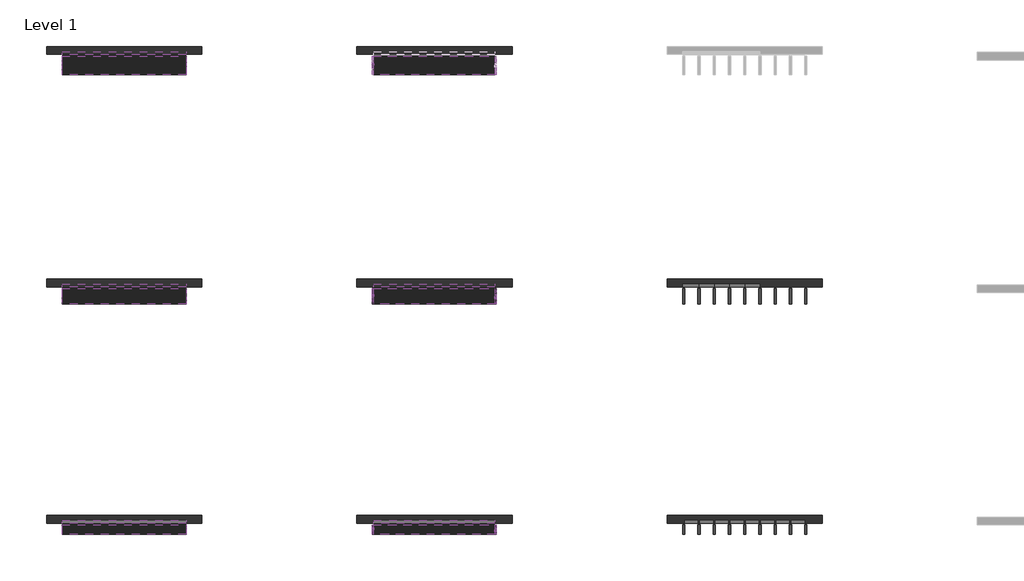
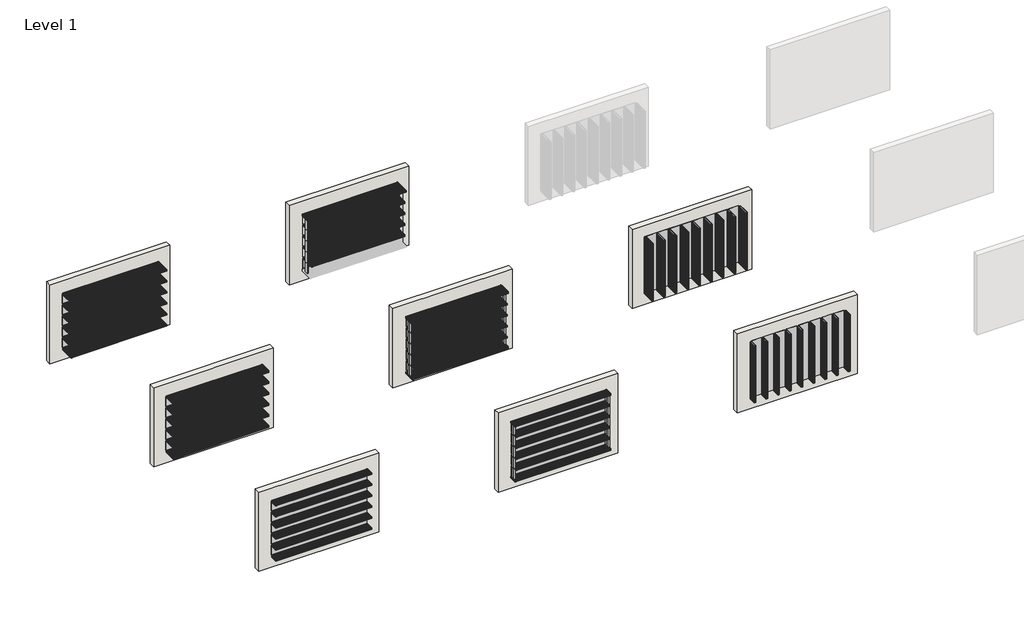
# One storey, part 1 of 2: 78 members, 42 plates, 8 walls.
"""IFC4 building model written with IfcOpenShell, lengths in millimetres."""

from ifc_helpers import new_model, si_unit, frame, origin, place, context, project, spatial, polyline, outline, extrude, transform, mapped, element, save
from components import rectangular_mullion_e7a12ab5, rectangular_mullion_9afa0fde, rectangular_mullion_1fec48aa, rectangular_mullion_8edc9b5f, rectangular_mullion_f36710fc, rectangular_mullion_82132d08, rectangular_mullion_6b931d9c, rectangular_mullion_3092dc87, rectangular_mullion_f4db7530, rectangular_mullion_54078338, rectangular_mullion_9ec098c8, rectangular_mullion_fd81fceb, rectangular_mullion_efde3910, rectangular_mullion_515cd994, rectangular_mullion_b1ff1e1a, rectangular_mullion_0f0b8b28, rectangular_mullion_9a2d486a, rectangular_mullion_e13a8b86, rectangular_mullion_43a89640, rectangular_mullion_75429e41, rectangular_mullion_1ee86cb2, rectangular_mullion_ad60da95, rectangular_mullion_b48c3bbc, rectangular_mullion_64b65505, rectangular_mullion_6cfd7e29, rectangular_mullion_b2dc265e, rectangular_mullion_c6cb1da7, rectangular_mullion_bf93cbae, empty_system_panel_empty_2b10398d, empty_system_panel_empty_9535f070, empty_system_panel_empty_1f33cd26, empty_system_panel_empty_1204e38e, empty_system_panel_empty_f2d115f6

model = new_model("IFC4")

# Units and contexts
model_context = context("Model", 3, world=origin())
ifc_project = project(units=[si_unit("LENGTHUNIT", "METRE", prefix="MILLI")], contexts=[model_context])

# Site, building, storey
site = spatial("IfcSite", under=ifc_project)
building = spatial("IfcBuilding", under=site)
storey = spatial("IfcBuildingStorey", under=building, Name="Level 1", Elevation=0.0)

# Members
placement = place(None, origin())
rectangular_mullion_shape = rectangular_mullion_e7a12ab5(model_context)
element("IfcMember", 1, ObjectType="Rectangular Mullion : DucoSun Cubic Design louvre 300", at=placement, inside=storey, context=model_context, shape_type="MappedRepresentation", body=[
    mapped(rectangular_mullion_shape, transform((-39750.3735323, 5955.0640004, 0.0), x_axis=(1.0, 0.0, 0.0), y_axis=(0.0, -1.0, 0.0), z_axis=(0.0, 0.0, -1.0))),
])
element("IfcMember", 2, ObjectType="Rectangular Mullion : DucoSun Cubic Design louvre 300", at=placement, inside=storey, context=model_context, shape_type="MappedRepresentation", body=[
    mapped(rectangular_mullion_shape, transform((-39258.8735324, 5955.0640004, 0.0), x_axis=(1.0, 0.0, 0.0), y_axis=(0.0, -1.0, 0.0), z_axis=(0.0, 0.0, -1.0))),
])
element("IfcMember", 3, ObjectType="Rectangular Mullion : DucoSun Cubic Design louvre 300", at=placement, inside=storey, context=model_context, shape_type="MappedRepresentation", body=[
    mapped(rectangular_mullion_shape, transform((-38767.3735325, 5955.0640004, 0.0), x_axis=(1.0, 0.0, 0.0), y_axis=(0.0, -1.0, 0.0), z_axis=(0.0, 0.0, -1.0))),
])
element("IfcMember", 4, ObjectType="Rectangular Mullion : DucoSun Cubic Design louvre 300", at=placement, inside=storey, context=model_context, shape_type="MappedRepresentation", body=[
    mapped(rectangular_mullion_shape, transform((-38275.8735325, 5955.0640004, 0.0), x_axis=(1.0, 0.0, 0.0), y_axis=(0.0, -1.0, 0.0), z_axis=(0.0, 0.0, -1.0))),
])
element("IfcMember", 5, ObjectType="Rectangular Mullion : DucoSun Cubic Design louvre 300", at=placement, inside=storey, context=model_context, shape_type="MappedRepresentation", body=[
    mapped(rectangular_mullion_shape, transform((-37784.3735326, 5955.0640004, 0.0), x_axis=(1.0, 0.0, 0.0), y_axis=(0.0, -1.0, 0.0), z_axis=(0.0, 0.0, -1.0))),
])
element("IfcMember", 6, ObjectType="Rectangular Mullion : DucoSun Cubic Design louvre 300", at=placement, inside=storey, context=model_context, shape_type="MappedRepresentation", body=[
    mapped(rectangular_mullion_shape, transform((-37292.8735327, 5955.0640004, 0.0), x_axis=(1.0, 0.0, 0.0), y_axis=(0.0, -1.0, 0.0), z_axis=(0.0, 0.0, -1.0))),
])
element("IfcMember", 7, ObjectType="Rectangular Mullion : DucoSun Cubic Design louvre 300", at=placement, inside=storey, context=model_context, shape_type="MappedRepresentation", body=[
    mapped(rectangular_mullion_shape, transform((-36801.3735328, 5955.0640004, 0.0), x_axis=(1.0, 0.0, 0.0), y_axis=(0.0, -1.0, 0.0), z_axis=(0.0, 0.0, -1.0))),
])
rectangular_mullion_2_shape = rectangular_mullion_9afa0fde(model_context)
element("IfcMember", 8, ObjectType="Rectangular Mullion : DucoSun Cubic Design louvre 300", at=placement, inside=storey, context=model_context, shape_type="MappedRepresentation", body=[
    mapped(rectangular_mullion_2_shape, transform((-36275.8735325, 5955.0640004, 0.0), x_axis=(1.0, 0.0, 0.0), y_axis=(0.0, -1.0, 0.0), z_axis=(0.0, 0.0, -1.0))),
])
rectangular_mullion_3_shape = rectangular_mullion_1fec48aa(model_context)
element("IfcMember", 9, ObjectType="Rectangular Mullion : DucoSun Cubic Design louvre 300", at=placement, inside=storey, context=model_context, shape_type="MappedRepresentation", body=[
    mapped(rectangular_mullion_3_shape, transform((-40275.8735325, 5955.0640004, 2500.0), x_axis=(-1.0, 0.0, 0.0), y_axis=(0.0, -1.0, 0.0), z_axis=(0.0, 0.0, 1.0))),
])
rectangular_mullion_4_shape = rectangular_mullion_8edc9b5f(model_context)
element("IfcMember", 10, ObjectType="Rectangular Mullion : DucoSun Cubic Design louvre 500", at=placement, inside=storey, context=model_context, shape_type="MappedRepresentation", body=[
    mapped(rectangular_mullion_4_shape, transform((-39750.3735323, 13580.0640004, 0.0), x_axis=(1.0, 0.0, 0.0), y_axis=(0.0, -1.0, 0.0), z_axis=(0.0, 0.0, -1.0))),
])
element("IfcMember", 11, ObjectType="Rectangular Mullion : DucoSun Cubic Design louvre 500", at=placement, inside=storey, context=model_context, shape_type="MappedRepresentation", body=[
    mapped(rectangular_mullion_4_shape, transform((-39258.8735324, 13580.0640004, 0.0), x_axis=(1.0, 0.0, 0.0), y_axis=(0.0, -1.0, 0.0), z_axis=(0.0, 0.0, -1.0))),
])
element("IfcMember", 12, ObjectType="Rectangular Mullion : DucoSun Cubic Design louvre 500", at=placement, inside=storey, context=model_context, shape_type="MappedRepresentation", body=[
    mapped(rectangular_mullion_4_shape, transform((-38767.3735325, 13580.0640004, 0.0), x_axis=(1.0, 0.0, 0.0), y_axis=(0.0, -1.0, 0.0), z_axis=(0.0, 0.0, -1.0))),
])
element("IfcMember", 13, ObjectType="Rectangular Mullion : DucoSun Cubic Design louvre 500", at=placement, inside=storey, context=model_context, shape_type="MappedRepresentation", body=[
    mapped(rectangular_mullion_4_shape, transform((-38275.8735325, 13580.0640004, 0.0), x_axis=(1.0, 0.0, 0.0), y_axis=(0.0, -1.0, 0.0), z_axis=(0.0, 0.0, -1.0))),
])
element("IfcMember", 14, ObjectType="Rectangular Mullion : DucoSun Cubic Design louvre 500", at=placement, inside=storey, context=model_context, shape_type="MappedRepresentation", body=[
    mapped(rectangular_mullion_4_shape, transform((-37784.3735326, 13580.0640004, 0.0), x_axis=(1.0, 0.0, 0.0), y_axis=(0.0, -1.0, 0.0), z_axis=(0.0, 0.0, -1.0))),
])
element("IfcMember", 15, ObjectType="Rectangular Mullion : DucoSun Cubic Design louvre 500", at=placement, inside=storey, context=model_context, shape_type="MappedRepresentation", body=[
    mapped(rectangular_mullion_4_shape, transform((-37292.8735327, 13580.0640004, 0.0), x_axis=(1.0, 0.0, 0.0), y_axis=(0.0, -1.0, 0.0), z_axis=(0.0, 0.0, -1.0))),
])
element("IfcMember", 16, ObjectType="Rectangular Mullion : DucoSun Cubic Design louvre 500", at=placement, inside=storey, context=model_context, shape_type="MappedRepresentation", body=[
    mapped(rectangular_mullion_4_shape, transform((-36801.3735328, 13580.0640004, 0.0), x_axis=(1.0, 0.0, 0.0), y_axis=(0.0, -1.0, 0.0), z_axis=(0.0, 0.0, -1.0))),
])
rectangular_mullion_5_shape = rectangular_mullion_f36710fc(model_context)
element("IfcMember", 17, ObjectType="Rectangular Mullion : DucoSun Cubic Design louvre 500", at=placement, inside=storey, context=model_context, shape_type="MappedRepresentation", body=[
    mapped(rectangular_mullion_5_shape, transform((-36275.8735325, 13580.0640004, 0.0), x_axis=(1.0, 0.0, 0.0), y_axis=(0.0, -1.0, 0.0), z_axis=(0.0, 0.0, -1.0))),
])
rectangular_mullion_6_shape = rectangular_mullion_82132d08(model_context)
element("IfcMember", 18, ObjectType="Rectangular Mullion : DucoSun Cubic Design louvre 500", at=placement, inside=storey, context=model_context, shape_type="MappedRepresentation", body=[
    mapped(rectangular_mullion_6_shape, transform((-40275.8735325, 13580.0640004, 2500.0), x_axis=(-1.0, 0.0, 0.0), y_axis=(0.0, -1.0, 0.0), z_axis=(0.0, 0.0, 1.0))),
])
rectangular_mullion_7_shape = rectangular_mullion_6b931d9c(model_context)
element("IfcMember", 19, ObjectType="Rectangular Mullion : DucoSun Cubic Design louvre 300", at=placement, inside=storey, context=model_context, shape_type="MappedRepresentation", body=[
    mapped(rectangular_mullion_7_shape, transform((-60275.8735325, 5955.0640004, 2500.0), x_axis=(0.0, 0.0, 1.0), y_axis=(0.0, 1.0, 0.0), z_axis=(-1.0, 0.0, 0.0))),
])
rectangular_mullion_8_shape = rectangular_mullion_3092dc87(model_context)
element("IfcMember", 20, ObjectType="Rectangular Mullion : DucoSun Cubic Design louvre 300", at=placement, inside=storey, context=model_context, shape_type="MappedRepresentation", body=[
    mapped(rectangular_mullion_8_shape, transform((-56275.8735325, 5955.0640004, 0.0), x_axis=(0.0, 0.0, -1.0), y_axis=(0.0, 1.0, 0.0), z_axis=(1.0, 0.0, 0.0))),
])
rectangular_mullion_9_shape = rectangular_mullion_f4db7530(model_context)
element("IfcMember", 21, ObjectType="Rectangular Mullion : DucoSun Cubic Design louvre 300", at=placement, inside=storey, context=model_context, shape_type="MappedRepresentation", body=[
    mapped(rectangular_mullion_9_shape, transform((-60275.8735325, 5955.0640004, 520.4), x_axis=(0.0, 0.0, 1.0), y_axis=(0.0, 1.0, 0.0), z_axis=(-1.0, 0.0, 0.0))),
])
element("IfcMember", 22, ObjectType="Rectangular Mullion : DucoSun Cubic Design louvre 300", at=placement, inside=storey, context=model_context, shape_type="MappedRepresentation", body=[
    mapped(rectangular_mullion_9_shape, transform((-60275.8735325, 5955.0640004, 1006.8), x_axis=(0.0, 0.0, 1.0), y_axis=(0.0, 1.0, 0.0), z_axis=(-1.0, 0.0, 0.0))),
])
element("IfcMember", 23, ObjectType="Rectangular Mullion : DucoSun Cubic Design louvre 300", at=placement, inside=storey, context=model_context, shape_type="MappedRepresentation", body=[
    mapped(rectangular_mullion_9_shape, transform((-60275.8735325, 5955.0640004, 1493.2), x_axis=(0.0, 0.0, 1.0), y_axis=(0.0, 1.0, 0.0), z_axis=(-1.0, 0.0, 0.0))),
])
element("IfcMember", 24, ObjectType="Rectangular Mullion : DucoSun Cubic Design louvre 300", at=placement, inside=storey, context=model_context, shape_type="MappedRepresentation", body=[
    mapped(rectangular_mullion_9_shape, transform((-60275.8735325, 5955.0640004, 1979.6), x_axis=(0.0, 0.0, 1.0), y_axis=(0.0, 1.0, 0.0), z_axis=(-1.0, 0.0, 0.0))),
])
rectangular_mullion_10_shape = rectangular_mullion_54078338(model_context)
element("IfcMember", 25, ObjectType="Rectangular Mullion : DucoSun Cubic Design louvre 500", at=placement, inside=storey, context=model_context, shape_type="MappedRepresentation", body=[
    mapped(rectangular_mullion_10_shape, transform((-60275.8735325, 13580.0640004, 2500.0), x_axis=(0.0, 0.0, 1.0), y_axis=(0.0, 1.0, 0.0), z_axis=(-1.0, 0.0, 0.0))),
])
rectangular_mullion_11_shape = rectangular_mullion_9ec098c8(model_context)
element("IfcMember", 26, ObjectType="Rectangular Mullion : DucoSun Cubic Design louvre 500", at=placement, inside=storey, context=model_context, shape_type="MappedRepresentation", body=[
    mapped(rectangular_mullion_11_shape, transform((-56275.8735325, 13580.0640004, 0.0), x_axis=(0.0, 0.0, -1.0), y_axis=(0.0, 1.0, 0.0), z_axis=(1.0, 0.0, 0.0))),
])
rectangular_mullion_12_shape = rectangular_mullion_fd81fceb(model_context)
element("IfcMember", 27, ObjectType="Rectangular Mullion : DucoSun Cubic Design louvre 500", at=placement, inside=storey, context=model_context, shape_type="MappedRepresentation", body=[
    mapped(rectangular_mullion_12_shape, transform((-60275.8735325, 13580.0640004, 520.4), x_axis=(0.0, 0.0, 1.0), y_axis=(0.0, 1.0, 0.0), z_axis=(-1.0, 0.0, 0.0))),
])
element("IfcMember", 28, ObjectType="Rectangular Mullion : DucoSun Cubic Design louvre 500", at=placement, inside=storey, context=model_context, shape_type="MappedRepresentation", body=[
    mapped(rectangular_mullion_12_shape, transform((-60275.8735325, 13580.0640004, 1006.8), x_axis=(0.0, 0.0, 1.0), y_axis=(0.0, 1.0, 0.0), z_axis=(-1.0, 0.0, 0.0))),
])
element("IfcMember", 29, ObjectType="Rectangular Mullion : DucoSun Cubic Design louvre 500", at=placement, inside=storey, context=model_context, shape_type="MappedRepresentation", body=[
    mapped(rectangular_mullion_12_shape, transform((-60275.8735325, 13580.0640004, 1493.2), x_axis=(0.0, 0.0, 1.0), y_axis=(0.0, 1.0, 0.0), z_axis=(-1.0, 0.0, 0.0))),
])
element("IfcMember", 30, ObjectType="Rectangular Mullion : DucoSun Cubic Design louvre 500", at=placement, inside=storey, context=model_context, shape_type="MappedRepresentation", body=[
    mapped(rectangular_mullion_12_shape, transform((-60275.8735325, 13580.0640004, 1979.6), x_axis=(0.0, 0.0, 1.0), y_axis=(0.0, 1.0, 0.0), z_axis=(-1.0, 0.0, 0.0))),
])
rectangular_mullion_13_shape = rectangular_mullion_efde3910(model_context)
element("IfcMember", 31, ObjectType="Rectangular Mullion : DucoSun Cubic Design louvre 600", at=placement, inside=storey, context=model_context, shape_type="MappedRepresentation", body=[
    mapped(rectangular_mullion_13_shape, transform((-60275.8735325, 21080.0640004, 2500.0), x_axis=(0.0, 0.0, 1.0), y_axis=(0.0, 1.0, 0.0), z_axis=(-1.0, 0.0, 0.0))),
])
rectangular_mullion_14_shape = rectangular_mullion_515cd994(model_context)
element("IfcMember", 32, ObjectType="Rectangular Mullion : DucoSun Cubic Design louvre 600", at=placement, inside=storey, context=model_context, shape_type="MappedRepresentation", body=[
    mapped(rectangular_mullion_14_shape, transform((-56275.8735325, 21080.0640004, 0.0), x_axis=(0.0, 0.0, -1.0), y_axis=(0.0, 1.0, 0.0), z_axis=(1.0, 0.0, 0.0))),
])
rectangular_mullion_15_shape = rectangular_mullion_b1ff1e1a(model_context)
element("IfcMember", 33, ObjectType="Rectangular Mullion : DucoSun Cubic Design louvre 600", at=placement, inside=storey, context=model_context, shape_type="MappedRepresentation", body=[
    mapped(rectangular_mullion_15_shape, transform((-60275.8735325, 21080.0640004, 520.4), x_axis=(0.0, 0.0, 1.0), y_axis=(0.0, 1.0, 0.0), z_axis=(-1.0, 0.0, 0.0))),
])
element("IfcMember", 34, ObjectType="Rectangular Mullion : DucoSun Cubic Design louvre 600", at=placement, inside=storey, context=model_context, shape_type="MappedRepresentation", body=[
    mapped(rectangular_mullion_15_shape, transform((-60275.8735325, 21080.0640004, 1006.8), x_axis=(0.0, 0.0, 1.0), y_axis=(0.0, 1.0, 0.0), z_axis=(-1.0, 0.0, 0.0))),
])
element("IfcMember", 35, ObjectType="Rectangular Mullion : DucoSun Cubic Design louvre 600", at=placement, inside=storey, context=model_context, shape_type="MappedRepresentation", body=[
    mapped(rectangular_mullion_15_shape, transform((-60275.8735325, 21080.0640004, 1493.2), x_axis=(0.0, 0.0, 1.0), y_axis=(0.0, 1.0, 0.0), z_axis=(-1.0, 0.0, 0.0))),
])
element("IfcMember", 36, ObjectType="Rectangular Mullion : DucoSun Cubic Design louvre 600", at=placement, inside=storey, context=model_context, shape_type="MappedRepresentation", body=[
    mapped(rectangular_mullion_15_shape, transform((-60275.8735325, 21080.0640004, 1979.6), x_axis=(0.0, 0.0, 1.0), y_axis=(0.0, 1.0, 0.0), z_axis=(-1.0, 0.0, 0.0))),
])
element("IfcMember", 37, ObjectType="Rectangular Mullion : DucoSun Cubic Design louvre 300", at=placement, inside=storey, context=model_context, shape_type="MappedRepresentation", body=[
    mapped(rectangular_mullion_7_shape, transform((-50275.8735325, 5955.0640004, 2500.0), x_axis=(0.0, 0.0, 1.0), y_axis=(0.0, 1.0, 0.0), z_axis=(-1.0, 0.0, 0.0))),
])
element("IfcMember", 38, ObjectType="Rectangular Mullion : DucoSun Cubic Design louvre 300", at=placement, inside=storey, context=model_context, shape_type="MappedRepresentation", body=[
    mapped(rectangular_mullion_8_shape, transform((-46275.8735325, 5955.0640004, 0.0), x_axis=(0.0, 0.0, -1.0), y_axis=(0.0, 1.0, 0.0), z_axis=(1.0, 0.0, 0.0))),
])
rectangular_mullion_16_shape = rectangular_mullion_0f0b8b28(model_context)
element("IfcMember", 39, ObjectType="Rectangular Mullion : DucoSun Cubic Design louvre 300", at=placement, inside=storey, context=model_context, shape_type="MappedRepresentation", body=[
    mapped(rectangular_mullion_16_shape, transform((-50225.8735325, 5955.0640004, 520.4), x_axis=(0.0, 0.0, 1.0), y_axis=(0.0, 1.0, 0.0), z_axis=(-1.0, 0.0, 0.0))),
])
element("IfcMember", 40, ObjectType="Rectangular Mullion : DucoSun Cubic Design louvre 300", at=placement, inside=storey, context=model_context, shape_type="MappedRepresentation", body=[
    mapped(rectangular_mullion_16_shape, transform((-50225.8735325, 5955.0640004, 1006.8), x_axis=(0.0, 0.0, 1.0), y_axis=(0.0, 1.0, 0.0), z_axis=(-1.0, 0.0, 0.0))),
])
element("IfcMember", 41, ObjectType="Rectangular Mullion : DucoSun Cubic Design louvre 300", at=placement, inside=storey, context=model_context, shape_type="MappedRepresentation", body=[
    mapped(rectangular_mullion_16_shape, transform((-50225.8735325, 5955.0640004, 1493.2), x_axis=(0.0, 0.0, 1.0), y_axis=(0.0, 1.0, 0.0), z_axis=(-1.0, 0.0, 0.0))),
])
element("IfcMember", 42, ObjectType="Rectangular Mullion : DucoSun Cubic Design louvre 300", at=placement, inside=storey, context=model_context, shape_type="MappedRepresentation", body=[
    mapped(rectangular_mullion_16_shape, transform((-50225.8735325, 5955.0640004, 1979.6), x_axis=(0.0, 0.0, 1.0), y_axis=(0.0, 1.0, 0.0), z_axis=(-1.0, 0.0, 0.0))),
])
rectangular_mullion_17_shape = rectangular_mullion_9a2d486a(model_context)
element("IfcMember", 43, ObjectType="Rectangular Mullion : DucoSun Cubic Design profile 50x125 for louvre 300", at=placement, inside=storey, context=model_context, shape_type="MappedRepresentation", body=[
    mapped(rectangular_mullion_17_shape, transform((-50275.8735325, 5955.0640004, 68.0), x_axis=(-1.0, 0.0, 0.0), y_axis=(0.0, 1.0, 0.0), z_axis=(0.0, 0.0, -1.0))),
])
rectangular_mullion_18_shape = rectangular_mullion_e13a8b86(model_context)
element("IfcMember", 44, ObjectType="Rectangular Mullion : DucoSun Cubic Design profile 50x125 for louvre 300", at=placement, inside=storey, context=model_context, shape_type="MappedRepresentation", body=[
    mapped(rectangular_mullion_18_shape, transform((-50275.8735325, 5955.0640004, 520.4), x_axis=(-1.0, 0.0, 0.0), y_axis=(0.0, 1.0, 0.0), z_axis=(0.0, 0.0, -1.0))),
])
element("IfcMember", 45, ObjectType="Rectangular Mullion : DucoSun Cubic Design profile 50x125 for louvre 300", at=placement, inside=storey, context=model_context, shape_type="MappedRepresentation", body=[
    mapped(rectangular_mullion_18_shape, transform((-50275.8735325, 5955.0640004, 1006.8), x_axis=(-1.0, 0.0, 0.0), y_axis=(0.0, 1.0, 0.0), z_axis=(0.0, 0.0, -1.0))),
])
element("IfcMember", 46, ObjectType="Rectangular Mullion : DucoSun Cubic Design profile 50x125 for louvre 300", at=placement, inside=storey, context=model_context, shape_type="MappedRepresentation", body=[
    mapped(rectangular_mullion_18_shape, transform((-50275.8735325, 5955.0640004, 1493.2), x_axis=(-1.0, 0.0, 0.0), y_axis=(0.0, 1.0, 0.0), z_axis=(0.0, 0.0, -1.0))),
])
element("IfcMember", 47, ObjectType="Rectangular Mullion : DucoSun Cubic Design profile 50x125 for louvre 300", at=placement, inside=storey, context=model_context, shape_type="MappedRepresentation", body=[
    mapped(rectangular_mullion_17_shape, transform((-50275.8735325, 5955.0640004, 1979.6), x_axis=(-1.0, 0.0, 0.0), y_axis=(0.0, 1.0, 0.0), z_axis=(0.0, 0.0, -1.0))),
])
rectangular_mullion_19_shape = rectangular_mullion_43a89640(model_context)
element("IfcMember", 48, ObjectType="Rectangular Mullion : DucoSun Cubic Design profile 50x125 for louvre 300", at=placement, inside=storey, context=model_context, shape_type="MappedRepresentation", body=[
    mapped(rectangular_mullion_19_shape, transform((-46275.8735325, 5955.0640004, 2432.0), x_axis=(1.0, 0.0, 0.0), y_axis=(0.0, 1.0, 0.0), z_axis=(0.0, 0.0, 1.0))),
])
element("IfcMember", 49, ObjectType="Rectangular Mullion : DucoSun Cubic Design profile 50x125 for louvre 300", at=placement, inside=storey, context=model_context, shape_type="MappedRepresentation", body=[
    mapped(rectangular_mullion_19_shape, transform((-46275.8735325, 5955.0640004, 520.4), x_axis=(1.0, 0.0, 0.0), y_axis=(0.0, 1.0, 0.0), z_axis=(0.0, 0.0, 1.0))),
])
rectangular_mullion_20_shape = rectangular_mullion_75429e41(model_context)
element("IfcMember", 50, ObjectType="Rectangular Mullion : DucoSun Cubic Design profile 50x125 for louvre 300", at=placement, inside=storey, context=model_context, shape_type="MappedRepresentation", body=[
    mapped(rectangular_mullion_20_shape, transform((-46275.8735325, 5955.0640004, 1006.8), x_axis=(1.0, 0.0, 0.0), y_axis=(0.0, 1.0, 0.0), z_axis=(0.0, 0.0, 1.0))),
])
element("IfcMember", 51, ObjectType="Rectangular Mullion : DucoSun Cubic Design profile 50x125 for louvre 300", at=placement, inside=storey, context=model_context, shape_type="MappedRepresentation", body=[
    mapped(rectangular_mullion_20_shape, transform((-46275.8735325, 5955.0640004, 1493.2), x_axis=(1.0, 0.0, 0.0), y_axis=(0.0, 1.0, 0.0), z_axis=(0.0, 0.0, 1.0))),
])
element("IfcMember", 52, ObjectType="Rectangular Mullion : DucoSun Cubic Design profile 50x125 for louvre 300", at=placement, inside=storey, context=model_context, shape_type="MappedRepresentation", body=[
    mapped(rectangular_mullion_20_shape, transform((-46275.8735325, 5955.0640004, 1979.6), x_axis=(1.0, 0.0, 0.0), y_axis=(0.0, 1.0, 0.0), z_axis=(0.0, 0.0, 1.0))),
])
element("IfcMember", 53, ObjectType="Rectangular Mullion : DucoSun Cubic Design louvre 500", at=placement, inside=storey, context=model_context, shape_type="MappedRepresentation", body=[
    mapped(rectangular_mullion_10_shape, transform((-50275.8735325, 13580.0640004, 2500.0), x_axis=(0.0, 0.0, 1.0), y_axis=(0.0, 1.0, 0.0), z_axis=(-1.0, 0.0, 0.0))),
])
element("IfcMember", 54, ObjectType="Rectangular Mullion : DucoSun Cubic Design louvre 500", at=placement, inside=storey, context=model_context, shape_type="MappedRepresentation", body=[
    mapped(rectangular_mullion_11_shape, transform((-46275.8735325, 13580.0640004, 0.0), x_axis=(0.0, 0.0, -1.0), y_axis=(0.0, 1.0, 0.0), z_axis=(1.0, 0.0, 0.0))),
])
rectangular_mullion_21_shape = rectangular_mullion_1ee86cb2(model_context)
element("IfcMember", 55, ObjectType="Rectangular Mullion : DucoSun Cubic Design louvre 500", at=placement, inside=storey, context=model_context, shape_type="MappedRepresentation", body=[
    mapped(rectangular_mullion_21_shape, transform((-50225.8735325, 13580.0640004, 520.4), x_axis=(0.0, 0.0, 1.0), y_axis=(0.0, 1.0, 0.0), z_axis=(-1.0, 0.0, 0.0))),
])
element("IfcMember", 56, ObjectType="Rectangular Mullion : DucoSun Cubic Design louvre 500", at=placement, inside=storey, context=model_context, shape_type="MappedRepresentation", body=[
    mapped(rectangular_mullion_21_shape, transform((-50225.8735325, 13580.0640004, 1006.8), x_axis=(0.0, 0.0, 1.0), y_axis=(0.0, 1.0, 0.0), z_axis=(-1.0, 0.0, 0.0))),
])
element("IfcMember", 57, ObjectType="Rectangular Mullion : DucoSun Cubic Design louvre 500", at=placement, inside=storey, context=model_context, shape_type="MappedRepresentation", body=[
    mapped(rectangular_mullion_21_shape, transform((-50225.8735325, 13580.0640004, 1493.2), x_axis=(0.0, 0.0, 1.0), y_axis=(0.0, 1.0, 0.0), z_axis=(-1.0, 0.0, 0.0))),
])
element("IfcMember", 58, ObjectType="Rectangular Mullion : DucoSun Cubic Design louvre 500", at=placement, inside=storey, context=model_context, shape_type="MappedRepresentation", body=[
    mapped(rectangular_mullion_21_shape, transform((-50225.8735325, 13580.0640004, 1979.6), x_axis=(0.0, 0.0, 1.0), y_axis=(0.0, 1.0, 0.0), z_axis=(-1.0, 0.0, 0.0))),
])
rectangular_mullion_22_shape = rectangular_mullion_ad60da95(model_context)
element("IfcMember", 59, ObjectType="Rectangular Mullion : DucoSun Cubic Design profile 50x125 for louvre 500", at=placement, inside=storey, context=model_context, shape_type="MappedRepresentation", body=[
    mapped(rectangular_mullion_22_shape, transform((-50275.8735325, 13580.0640004, 68.0), x_axis=(-1.0, 0.0, 0.0), y_axis=(0.0, 1.0, 0.0), z_axis=(0.0, 0.0, -1.0))),
])
rectangular_mullion_23_shape = rectangular_mullion_b48c3bbc(model_context)
element("IfcMember", 60, ObjectType="Rectangular Mullion : DucoSun Cubic Design profile 50x125 for louvre 500", at=placement, inside=storey, context=model_context, shape_type="MappedRepresentation", body=[
    mapped(rectangular_mullion_23_shape, transform((-50275.8735325, 13580.0640004, 520.4), x_axis=(-1.0, 0.0, 0.0), y_axis=(0.0, 1.0, 0.0), z_axis=(0.0, 0.0, -1.0))),
])
element("IfcMember", 61, ObjectType="Rectangular Mullion : DucoSun Cubic Design profile 50x125 for louvre 500", at=placement, inside=storey, context=model_context, shape_type="MappedRepresentation", body=[
    mapped(rectangular_mullion_23_shape, transform((-50275.8735325, 13580.0640004, 1006.8), x_axis=(-1.0, 0.0, 0.0), y_axis=(0.0, 1.0, 0.0), z_axis=(0.0, 0.0, -1.0))),
])
element("IfcMember", 62, ObjectType="Rectangular Mullion : DucoSun Cubic Design profile 50x125 for louvre 500", at=placement, inside=storey, context=model_context, shape_type="MappedRepresentation", body=[
    mapped(rectangular_mullion_23_shape, transform((-50275.8735325, 13580.0640004, 1493.2), x_axis=(-1.0, 0.0, 0.0), y_axis=(0.0, 1.0, 0.0), z_axis=(0.0, 0.0, -1.0))),
])
element("IfcMember", 63, ObjectType="Rectangular Mullion : DucoSun Cubic Design profile 50x125 for louvre 500", at=placement, inside=storey, context=model_context, shape_type="MappedRepresentation", body=[
    mapped(rectangular_mullion_22_shape, transform((-50275.8735325, 13580.0640004, 1979.6), x_axis=(-1.0, 0.0, 0.0), y_axis=(0.0, 1.0, 0.0), z_axis=(0.0, 0.0, -1.0))),
])
rectangular_mullion_24_shape = rectangular_mullion_64b65505(model_context)
element("IfcMember", 64, ObjectType="Rectangular Mullion : DucoSun Cubic Design profile 50x125 for louvre 500", at=placement, inside=storey, context=model_context, shape_type="MappedRepresentation", body=[
    mapped(rectangular_mullion_24_shape, transform((-46275.8735325, 13580.0640004, 2432.0), x_axis=(1.0, 0.0, 0.0), y_axis=(0.0, 1.0, 0.0), z_axis=(0.0, 0.0, 1.0))),
])
element("IfcMember", 65, ObjectType="Rectangular Mullion : DucoSun Cubic Design profile 50x125 for louvre 500", at=placement, inside=storey, context=model_context, shape_type="MappedRepresentation", body=[
    mapped(rectangular_mullion_24_shape, transform((-46275.8735325, 13580.0640004, 520.4), x_axis=(1.0, 0.0, 0.0), y_axis=(0.0, 1.0, 0.0), z_axis=(0.0, 0.0, 1.0))),
])
rectangular_mullion_25_shape = rectangular_mullion_6cfd7e29(model_context)
element("IfcMember", 66, ObjectType="Rectangular Mullion : DucoSun Cubic Design profile 50x125 for louvre 500", at=placement, inside=storey, context=model_context, shape_type="MappedRepresentation", body=[
    mapped(rectangular_mullion_25_shape, transform((-46275.8735325, 13580.0640004, 1006.8), x_axis=(1.0, 0.0, 0.0), y_axis=(0.0, 1.0, 0.0), z_axis=(0.0, 0.0, 1.0))),
])
element("IfcMember", 67, ObjectType="Rectangular Mullion : DucoSun Cubic Design profile 50x125 for louvre 500", at=placement, inside=storey, context=model_context, shape_type="MappedRepresentation", body=[
    mapped(rectangular_mullion_25_shape, transform((-46275.8735325, 13580.0640004, 1493.2), x_axis=(1.0, 0.0, 0.0), y_axis=(0.0, 1.0, 0.0), z_axis=(0.0, 0.0, 1.0))),
])
element("IfcMember", 68, ObjectType="Rectangular Mullion : DucoSun Cubic Design profile 50x125 for louvre 500", at=placement, inside=storey, context=model_context, shape_type="MappedRepresentation", body=[
    mapped(rectangular_mullion_25_shape, transform((-46275.8735325, 13580.0640004, 1979.6), x_axis=(1.0, 0.0, 0.0), y_axis=(0.0, 1.0, 0.0), z_axis=(0.0, 0.0, 1.0))),
])
element("IfcMember", 69, ObjectType="Rectangular Mullion : DucoSun Cubic Design louvre 600", at=placement, inside=storey, context=model_context, shape_type="MappedRepresentation", body=[
    mapped(rectangular_mullion_13_shape, transform((-50275.8735325, 21080.0640004, 2500.0), x_axis=(0.0, 0.0, 1.0), y_axis=(0.0, 1.0, 0.0), z_axis=(-1.0, 0.0, 0.0))),
])
rectangular_mullion_26_shape = rectangular_mullion_b2dc265e(model_context)
element("IfcMember", 70, ObjectType="Rectangular Mullion : DucoSun Cubic Design louvre 600", at=placement, inside=storey, context=model_context, shape_type="MappedRepresentation", body=[
    mapped(rectangular_mullion_26_shape, transform((-50225.8735325, 21080.0640004, 520.4), x_axis=(0.0, 0.0, 1.0), y_axis=(0.0, 1.0, 0.0), z_axis=(-1.0, 0.0, 0.0))),
])
element("IfcMember", 71, ObjectType="Rectangular Mullion : DucoSun Cubic Design louvre 600", at=placement, inside=storey, context=model_context, shape_type="MappedRepresentation", body=[
    mapped(rectangular_mullion_26_shape, transform((-50225.8735325, 21080.0640004, 1006.8), x_axis=(0.0, 0.0, 1.0), y_axis=(0.0, 1.0, 0.0), z_axis=(-1.0, 0.0, 0.0))),
])
element("IfcMember", 72, ObjectType="Rectangular Mullion : DucoSun Cubic Design louvre 600", at=placement, inside=storey, context=model_context, shape_type="MappedRepresentation", body=[
    mapped(rectangular_mullion_26_shape, transform((-50225.8735325, 21080.0640004, 1493.2), x_axis=(0.0, 0.0, 1.0), y_axis=(0.0, 1.0, 0.0), z_axis=(-1.0, 0.0, 0.0))),
])
element("IfcMember", 73, ObjectType="Rectangular Mullion : DucoSun Cubic Design louvre 600", at=placement, inside=storey, context=model_context, shape_type="MappedRepresentation", body=[
    mapped(rectangular_mullion_26_shape, transform((-50225.8735325, 21080.0640004, 1979.6), x_axis=(0.0, 0.0, 1.0), y_axis=(0.0, 1.0, 0.0), z_axis=(-1.0, 0.0, 0.0))),
])
rectangular_mullion_27_shape = rectangular_mullion_c6cb1da7(model_context)
element("IfcMember", 74, ObjectType="Rectangular Mullion : DucoSun Cubic Design profile 50x125 for louvre 600", at=placement, inside=storey, context=model_context, shape_type="MappedRepresentation", body=[
    mapped(rectangular_mullion_27_shape, transform((-50275.8735325, 21080.0640004, 68.0), x_axis=(-1.0, 0.0, 0.0), y_axis=(0.0, 1.0, 0.0), z_axis=(0.0, 0.0, -1.0))),
])
rectangular_mullion_28_shape = rectangular_mullion_bf93cbae(model_context)
element("IfcMember", 75, ObjectType="Rectangular Mullion : DucoSun Cubic Design profile 50x125 for louvre 600", at=placement, inside=storey, context=model_context, shape_type="MappedRepresentation", body=[
    mapped(rectangular_mullion_28_shape, transform((-50275.8735325, 21080.0640004, 520.4), x_axis=(-1.0, 0.0, 0.0), y_axis=(0.0, 1.0, 0.0), z_axis=(0.0, 0.0, -1.0))),
])
element("IfcMember", 76, ObjectType="Rectangular Mullion : DucoSun Cubic Design profile 50x125 for louvre 600", at=placement, inside=storey, context=model_context, shape_type="MappedRepresentation", body=[
    mapped(rectangular_mullion_28_shape, transform((-50275.8735325, 21080.0640004, 1006.8), x_axis=(-1.0, 0.0, 0.0), y_axis=(0.0, 1.0, 0.0), z_axis=(0.0, 0.0, -1.0))),
])
element("IfcMember", 77, ObjectType="Rectangular Mullion : DucoSun Cubic Design profile 50x125 for louvre 600", at=placement, inside=storey, context=model_context, shape_type="MappedRepresentation", body=[
    mapped(rectangular_mullion_28_shape, transform((-50275.8735325, 21080.0640004, 1493.2), x_axis=(-1.0, 0.0, 0.0), y_axis=(0.0, 1.0, 0.0), z_axis=(0.0, 0.0, -1.0))),
])
element("IfcMember", 78, ObjectType="Rectangular Mullion : DucoSun Cubic Design profile 50x125 for louvre 600", at=placement, inside=storey, context=model_context, shape_type="MappedRepresentation", body=[
    mapped(rectangular_mullion_27_shape, transform((-50275.8735325, 21080.0640004, 1979.6), x_axis=(-1.0, 0.0, 0.0), y_axis=(0.0, 1.0, 0.0), z_axis=(0.0, 0.0, -1.0))),
])

# Plates
empty_system_panel_empty_shape = empty_system_panel_empty_2b10398d(model_context)
element("IfcPlate", 79, ObjectType="Empty System Panel : Empty", at=placement, inside=storey, context=model_context, shape_type="MappedRepresentation", body=[
    mapped(empty_system_panel_empty_shape, transform((-40013.1235324, 13580.0640004, 0.0), x_axis=(1.0, 0.0, 0.0), y_axis=(0.0, 1.0, 0.0), z_axis=(0.0, 0.0, 1.0))),
])
empty_system_panel_empty_2_shape = empty_system_panel_empty_9535f070(model_context)
element("IfcPlate", 80, ObjectType="Empty System Panel : Empty", at=placement, inside=storey, context=model_context, shape_type="MappedRepresentation", body=[
    mapped(empty_system_panel_empty_2_shape, transform((-39504.6235323, 13580.0640004, 0.0), x_axis=(1.0, 0.0, 0.0), y_axis=(0.0, 1.0, 0.0), z_axis=(0.0, 0.0, 1.0))),
])
element("IfcPlate", 81, ObjectType="Empty System Panel : Empty", at=placement, inside=storey, context=model_context, shape_type="MappedRepresentation", body=[
    mapped(empty_system_panel_empty_2_shape, transform((-39013.1235324, 13580.0640004, 0.0), x_axis=(1.0, 0.0, 0.0), y_axis=(0.0, 1.0, 0.0), z_axis=(0.0, 0.0, 1.0))),
])
element("IfcPlate", 82, ObjectType="Empty System Panel : Empty", at=placement, inside=storey, context=model_context, shape_type="MappedRepresentation", body=[
    mapped(empty_system_panel_empty_2_shape, transform((-38521.6235325, 13580.0640004, 0.0), x_axis=(1.0, 0.0, 0.0), y_axis=(0.0, 1.0, 0.0), z_axis=(0.0, 0.0, 1.0))),
])
element("IfcPlate", 83, ObjectType="Empty System Panel : Empty", at=placement, inside=storey, context=model_context, shape_type="MappedRepresentation", body=[
    mapped(empty_system_panel_empty_2_shape, transform((-38030.1235326, 13580.0640004, 0.0), x_axis=(1.0, 0.0, 0.0), y_axis=(0.0, 1.0, 0.0), z_axis=(0.0, 0.0, 1.0))),
])
element("IfcPlate", 84, ObjectType="Empty System Panel : Empty", at=placement, inside=storey, context=model_context, shape_type="MappedRepresentation", body=[
    mapped(empty_system_panel_empty_2_shape, transform((-37538.6235327, 13580.0640004, 0.0), x_axis=(1.0, 0.0, 0.0), y_axis=(0.0, 1.0, 0.0), z_axis=(0.0, 0.0, 1.0))),
])
element("IfcPlate", 85, ObjectType="Empty System Panel : Empty", at=placement, inside=storey, context=model_context, shape_type="MappedRepresentation", body=[
    mapped(empty_system_panel_empty_2_shape, transform((-37047.1235327, 13580.0640004, 0.0), x_axis=(1.0, 0.0, 0.0), y_axis=(0.0, 1.0, 0.0), z_axis=(0.0, 0.0, 1.0))),
])
empty_system_panel_empty_3_shape = empty_system_panel_empty_1f33cd26(model_context)
element("IfcPlate", 86, ObjectType="Empty System Panel : Empty", at=placement, inside=storey, context=model_context, shape_type="MappedRepresentation", body=[
    mapped(empty_system_panel_empty_3_shape, transform((-39996.1235324, 5955.0640004, 0.0), x_axis=(1.0, 0.0, 0.0), y_axis=(0.0, 1.0, 0.0), z_axis=(0.0, 0.0, 1.0))),
])
element("IfcPlate", 87, ObjectType="Empty System Panel : Empty", at=placement, inside=storey, context=model_context, shape_type="MappedRepresentation", body=[
    mapped(empty_system_panel_empty_3_shape, transform((-39504.6235323, 5955.0640004, 0.0), x_axis=(1.0, 0.0, 0.0), y_axis=(0.0, 1.0, 0.0), z_axis=(0.0, 0.0, 1.0))),
])
element("IfcPlate", 88, ObjectType="Empty System Panel : Empty", at=placement, inside=storey, context=model_context, shape_type="MappedRepresentation", body=[
    mapped(empty_system_panel_empty_3_shape, transform((-39013.1235324, 5955.0640004, 0.0), x_axis=(1.0, 0.0, 0.0), y_axis=(0.0, 1.0, 0.0), z_axis=(0.0, 0.0, 1.0))),
])
element("IfcPlate", 89, ObjectType="Empty System Panel : Empty", at=placement, inside=storey, context=model_context, shape_type="MappedRepresentation", body=[
    mapped(empty_system_panel_empty_3_shape, transform((-38521.6235325, 5955.0640004, 0.0), x_axis=(1.0, 0.0, 0.0), y_axis=(0.0, 1.0, 0.0), z_axis=(0.0, 0.0, 1.0))),
])
element("IfcPlate", 90, ObjectType="Empty System Panel : Empty", at=placement, inside=storey, context=model_context, shape_type="MappedRepresentation", body=[
    mapped(empty_system_panel_empty_3_shape, transform((-38030.1235326, 5955.0640004, 0.0), x_axis=(1.0, 0.0, 0.0), y_axis=(0.0, 1.0, 0.0), z_axis=(0.0, 0.0, 1.0))),
])
element("IfcPlate", 91, ObjectType="Empty System Panel : Empty", at=placement, inside=storey, context=model_context, shape_type="MappedRepresentation", body=[
    mapped(empty_system_panel_empty_3_shape, transform((-37538.6235327, 5955.0640004, 0.0), x_axis=(1.0, 0.0, 0.0), y_axis=(0.0, 1.0, 0.0), z_axis=(0.0, 0.0, 1.0))),
])
element("IfcPlate", 92, ObjectType="Empty System Panel : Empty", at=placement, inside=storey, context=model_context, shape_type="MappedRepresentation", body=[
    mapped(empty_system_panel_empty_3_shape, transform((-37047.1235327, 5955.0640004, 0.0), x_axis=(1.0, 0.0, 0.0), y_axis=(0.0, 1.0, 0.0), z_axis=(0.0, 0.0, 1.0))),
])
element("IfcPlate", 93, ObjectType="Empty System Panel : Empty", at=placement, inside=storey, context=model_context, shape_type="MappedRepresentation", body=[
    mapped(empty_system_panel_empty_3_shape, transform((-36555.6235327, 5955.0640004, 0.0), x_axis=(1.0, 0.0, 0.0), y_axis=(0.0, 1.0, 0.0), z_axis=(0.0, 0.0, 1.0))),
])
element("IfcPlate", 94, ObjectType="Empty System Panel : Empty", at=placement, inside=storey, context=model_context, shape_type="MappedRepresentation", body=[
    mapped(empty_system_panel_empty_3_shape, transform((-36555.6235327, 13580.0640004, 0.0), x_axis=(1.0, 0.0, 0.0), y_axis=(0.0, 1.0, 0.0), z_axis=(0.0, 0.0, 1.0))),
])
empty_system_panel_empty_4_shape = empty_system_panel_empty_1204e38e(model_context)
element("IfcPlate", 95, ObjectType="Empty System Panel : Empty", at=placement, inside=storey, context=model_context, shape_type="MappedRepresentation", body=[
    mapped(empty_system_panel_empty_4_shape, transform((-58275.8735325, 5955.0640004, 66.0), x_axis=(-1.0, 0.0, 0.0), y_axis=(0.0, -1.0, 0.0), z_axis=(0.0, 0.0, 1.0))),
])
element("IfcPlate", 96, ObjectType="Empty System Panel : Empty", at=placement, inside=storey, context=model_context, shape_type="MappedRepresentation", body=[
    mapped(empty_system_panel_empty_4_shape, transform((-58275.8735325, 5955.0640004, 552.4), x_axis=(-1.0, 0.0, 0.0), y_axis=(0.0, -1.0, 0.0), z_axis=(0.0, 0.0, 1.0))),
])
element("IfcPlate", 97, ObjectType="Empty System Panel : Empty", at=placement, inside=storey, context=model_context, shape_type="MappedRepresentation", body=[
    mapped(empty_system_panel_empty_4_shape, transform((-58275.8735325, 5955.0640004, 1038.8), x_axis=(-1.0, 0.0, 0.0), y_axis=(0.0, -1.0, 0.0), z_axis=(0.0, 0.0, 1.0))),
])
element("IfcPlate", 98, ObjectType="Empty System Panel : Empty", at=placement, inside=storey, context=model_context, shape_type="MappedRepresentation", body=[
    mapped(empty_system_panel_empty_4_shape, transform((-58275.8735325, 5955.0640004, 1525.2), x_axis=(-1.0, 0.0, 0.0), y_axis=(0.0, -1.0, 0.0), z_axis=(0.0, 0.0, 1.0))),
])
element("IfcPlate", 99, ObjectType="Empty System Panel : Empty", at=placement, inside=storey, context=model_context, shape_type="MappedRepresentation", body=[
    mapped(empty_system_panel_empty_4_shape, transform((-58275.8735325, 5955.0640004, 2011.6), x_axis=(-1.0, 0.0, 0.0), y_axis=(0.0, -1.0, 0.0), z_axis=(0.0, 0.0, 1.0))),
])
element("IfcPlate", 100, ObjectType="Empty System Panel : Empty", at=placement, inside=storey, context=model_context, shape_type="MappedRepresentation", body=[
    mapped(empty_system_panel_empty_4_shape, transform((-58275.8735325, 13580.0640004, 66.0), x_axis=(-1.0, 0.0, 0.0), y_axis=(0.0, -1.0, 0.0), z_axis=(0.0, 0.0, 1.0))),
])
element("IfcPlate", 101, ObjectType="Empty System Panel : Empty", at=placement, inside=storey, context=model_context, shape_type="MappedRepresentation", body=[
    mapped(empty_system_panel_empty_4_shape, transform((-58275.8735325, 13580.0640004, 552.4), x_axis=(-1.0, 0.0, 0.0), y_axis=(0.0, -1.0, 0.0), z_axis=(0.0, 0.0, 1.0))),
])
element("IfcPlate", 102, ObjectType="Empty System Panel : Empty", at=placement, inside=storey, context=model_context, shape_type="MappedRepresentation", body=[
    mapped(empty_system_panel_empty_4_shape, transform((-58275.8735325, 13580.0640004, 1038.8), x_axis=(-1.0, 0.0, 0.0), y_axis=(0.0, -1.0, 0.0), z_axis=(0.0, 0.0, 1.0))),
])
element("IfcPlate", 103, ObjectType="Empty System Panel : Empty", at=placement, inside=storey, context=model_context, shape_type="MappedRepresentation", body=[
    mapped(empty_system_panel_empty_4_shape, transform((-58275.8735325, 13580.0640004, 1525.2), x_axis=(-1.0, 0.0, 0.0), y_axis=(0.0, -1.0, 0.0), z_axis=(0.0, 0.0, 1.0))),
])
element("IfcPlate", 104, ObjectType="Empty System Panel : Empty", at=placement, inside=storey, context=model_context, shape_type="MappedRepresentation", body=[
    mapped(empty_system_panel_empty_4_shape, transform((-58275.8735325, 13580.0640004, 2011.6), x_axis=(-1.0, 0.0, 0.0), y_axis=(0.0, -1.0, 0.0), z_axis=(0.0, 0.0, 1.0))),
])
element("IfcPlate", 105, ObjectType="Empty System Panel : Empty", at=placement, inside=storey, context=model_context, shape_type="MappedRepresentation", body=[
    mapped(empty_system_panel_empty_4_shape, transform((-58275.8735325, 21080.0640004, 66.0), x_axis=(-1.0, 0.0, 0.0), y_axis=(0.0, -1.0, 0.0), z_axis=(0.0, 0.0, 1.0))),
])
element("IfcPlate", 106, ObjectType="Empty System Panel : Empty", at=placement, inside=storey, context=model_context, shape_type="MappedRepresentation", body=[
    mapped(empty_system_panel_empty_4_shape, transform((-58275.8735325, 21080.0640004, 552.4), x_axis=(-1.0, 0.0, 0.0), y_axis=(0.0, -1.0, 0.0), z_axis=(0.0, 0.0, 1.0))),
])
element("IfcPlate", 107, ObjectType="Empty System Panel : Empty", at=placement, inside=storey, context=model_context, shape_type="MappedRepresentation", body=[
    mapped(empty_system_panel_empty_4_shape, transform((-58275.8735325, 21080.0640004, 1038.8), x_axis=(-1.0, 0.0, 0.0), y_axis=(0.0, -1.0, 0.0), z_axis=(0.0, 0.0, 1.0))),
])
element("IfcPlate", 108, ObjectType="Empty System Panel : Empty", at=placement, inside=storey, context=model_context, shape_type="MappedRepresentation", body=[
    mapped(empty_system_panel_empty_4_shape, transform((-58275.8735325, 21080.0640004, 1525.2), x_axis=(-1.0, 0.0, 0.0), y_axis=(0.0, -1.0, 0.0), z_axis=(0.0, 0.0, 1.0))),
])
element("IfcPlate", 109, ObjectType="Empty System Panel : Empty", at=placement, inside=storey, context=model_context, shape_type="MappedRepresentation", body=[
    mapped(empty_system_panel_empty_4_shape, transform((-58275.8735325, 21080.0640004, 2011.6), x_axis=(-1.0, 0.0, 0.0), y_axis=(0.0, -1.0, 0.0), z_axis=(0.0, 0.0, 1.0))),
])
empty_system_panel_empty_5_shape = empty_system_panel_empty_f2d115f6(model_context)
element("IfcPlate", 110, ObjectType="Empty System Panel : Empty", at=placement, inside=storey, context=model_context, shape_type="MappedRepresentation", body=[
    mapped(empty_system_panel_empty_5_shape, transform((-48275.8735325, 5955.0640004, 66.0), x_axis=(-1.0, 0.0, 0.0), y_axis=(0.0, -1.0, 0.0), z_axis=(0.0, 0.0, 1.0))),
])
element("IfcPlate", 111, ObjectType="Empty System Panel : Empty", at=placement, inside=storey, context=model_context, shape_type="MappedRepresentation", body=[
    mapped(empty_system_panel_empty_5_shape, transform((-48275.8735325, 5955.0640004, 552.4), x_axis=(-1.0, 0.0, 0.0), y_axis=(0.0, -1.0, 0.0), z_axis=(0.0, 0.0, 1.0))),
])
element("IfcPlate", 112, ObjectType="Empty System Panel : Empty", at=placement, inside=storey, context=model_context, shape_type="MappedRepresentation", body=[
    mapped(empty_system_panel_empty_5_shape, transform((-48275.8735325, 5955.0640004, 1038.8), x_axis=(-1.0, 0.0, 0.0), y_axis=(0.0, -1.0, 0.0), z_axis=(0.0, 0.0, 1.0))),
])
element("IfcPlate", 113, ObjectType="Empty System Panel : Empty", at=placement, inside=storey, context=model_context, shape_type="MappedRepresentation", body=[
    mapped(empty_system_panel_empty_5_shape, transform((-48275.8735325, 5955.0640004, 1525.2), x_axis=(-1.0, 0.0, 0.0), y_axis=(0.0, -1.0, 0.0), z_axis=(0.0, 0.0, 1.0))),
])
element("IfcPlate", 114, ObjectType="Empty System Panel : Empty", at=placement, inside=storey, context=model_context, shape_type="MappedRepresentation", body=[
    mapped(empty_system_panel_empty_5_shape, transform((-48275.8735325, 5955.0640004, 2011.6), x_axis=(-1.0, 0.0, 0.0), y_axis=(0.0, -1.0, 0.0), z_axis=(0.0, 0.0, 1.0))),
])
element("IfcPlate", 115, ObjectType="Empty System Panel : Empty", at=placement, inside=storey, context=model_context, shape_type="MappedRepresentation", body=[
    mapped(empty_system_panel_empty_5_shape, transform((-48275.8735325, 13580.0640004, 66.0), x_axis=(-1.0, 0.0, 0.0), y_axis=(0.0, -1.0, 0.0), z_axis=(0.0, 0.0, 1.0))),
])
element("IfcPlate", 116, ObjectType="Empty System Panel : Empty", at=placement, inside=storey, context=model_context, shape_type="MappedRepresentation", body=[
    mapped(empty_system_panel_empty_5_shape, transform((-48275.8735325, 13580.0640004, 552.4), x_axis=(-1.0, 0.0, 0.0), y_axis=(0.0, -1.0, 0.0), z_axis=(0.0, 0.0, 1.0))),
])
element("IfcPlate", 117, ObjectType="Empty System Panel : Empty", at=placement, inside=storey, context=model_context, shape_type="MappedRepresentation", body=[
    mapped(empty_system_panel_empty_5_shape, transform((-48275.8735325, 13580.0640004, 1038.8), x_axis=(-1.0, 0.0, 0.0), y_axis=(0.0, -1.0, 0.0), z_axis=(0.0, 0.0, 1.0))),
])
element("IfcPlate", 118, ObjectType="Empty System Panel : Empty", at=placement, inside=storey, context=model_context, shape_type="MappedRepresentation", body=[
    mapped(empty_system_panel_empty_5_shape, transform((-48275.8735325, 13580.0640004, 1525.2), x_axis=(-1.0, 0.0, 0.0), y_axis=(0.0, -1.0, 0.0), z_axis=(0.0, 0.0, 1.0))),
])
element("IfcPlate", 119, ObjectType="Empty System Panel : Empty", at=placement, inside=storey, context=model_context, shape_type="MappedRepresentation", body=[
    mapped(empty_system_panel_empty_5_shape, transform((-48275.8735325, 13580.0640004, 2011.6), x_axis=(-1.0, 0.0, 0.0), y_axis=(0.0, -1.0, 0.0), z_axis=(0.0, 0.0, 1.0))),
])
element("IfcPlate", 120, ObjectType="Empty System Panel : Empty", at=placement, inside=storey, context=model_context, shape_type="MappedRepresentation", body=[
    mapped(empty_system_panel_empty_5_shape, transform((-48275.8735325, 21080.0640004, 66.0), x_axis=(-1.0, 0.0, 0.0), y_axis=(0.0, -1.0, 0.0), z_axis=(0.0, 0.0, 1.0))),
])

# Walls
element("IfcWall", 121, ObjectType="Baisic", at=placement, inside=storey, context=model_context, shape_type="SweptSolid", body=[
    extrude(outline(polyline([(-35775.8735325, 6015.0640004), (-40775.8735325, 6015.0640004), (-40775.8735325, 6265.0640004), (-35775.8735325, 6265.0640004), (-35775.8735325, 6015.0640004)])), frame((0.0, 0.0, -500.0), z_axis=(0.0, 0.0, 1.0), x_axis=(1.0, 0.0, 0.0)), (0.0, 0.0, 1.0), 3500.0),
])
element("IfcWall", 122, ObjectType="Baisic", at=placement, inside=storey, context=model_context, shape_type="SweptSolid", body=[
    extrude(outline(polyline([(-35775.8735325, 13640.0640004), (-40775.8735325, 13640.0640004), (-40775.8735325, 13890.0640004), (-35775.8735325, 13890.0640004), (-35775.8735325, 13640.0640004)])), frame((0.0, 0.0, -500.0), z_axis=(0.0, 0.0, 1.0), x_axis=(1.0, 0.0, 0.0)), (0.0, 0.0, 1.0), 3500.0),
])
element("IfcWall", 123, ObjectType="Baisic", at=placement, inside=storey, context=model_context, shape_type="SweptSolid", body=[
    extrude(outline(polyline([(-45775.8735325, 6015.0640004), (-50775.8735325, 6015.0640004), (-50775.8735325, 6265.0640004), (-45775.8735325, 6265.0640004), (-45775.8735325, 6015.0640004)])), frame((0.0, 0.0, -500.0), z_axis=(0.0, 0.0, 1.0), x_axis=(1.0, 0.0, 0.0)), (0.0, 0.0, 1.0), 3500.0),
])
element("IfcWall", 124, ObjectType="Baisic", at=placement, inside=storey, context=model_context, shape_type="SweptSolid", body=[
    extrude(outline(polyline([(-45775.8735325, 13640.0640004), (-50775.8735325, 13640.0640004), (-50775.8735325, 13890.0640004), (-45775.8735325, 13890.0640004), (-45775.8735325, 13640.0640004)])), frame((0.0, 0.0, -500.0), z_axis=(0.0, 0.0, 1.0), x_axis=(1.0, 0.0, 0.0)), (0.0, 0.0, 1.0), 3500.0),
])
element("IfcWall", 125, ObjectType="Baisic", at=placement, inside=storey, context=model_context, shape_type="SweptSolid", body=[
    extrude(outline(polyline([(-45775.8735325, 21140.0640004), (-50775.8735325, 21140.0640004), (-50775.8735325, 21390.0640004), (-45775.8735325, 21390.0640004), (-45775.8735325, 21140.0640004)])), frame((0.0, 0.0, -500.0), z_axis=(0.0, 0.0, 1.0), x_axis=(1.0, 0.0, 0.0)), (0.0, 0.0, 1.0), 3500.0),
])
element("IfcWall", 126, ObjectType="Baisic", at=placement, inside=storey, context=model_context, shape_type="SweptSolid", body=[
    extrude(outline(polyline([(-55775.8735325, 6015.0640004), (-60775.8735325, 6015.0640004), (-60775.8735325, 6265.0640004), (-55775.8735325, 6265.0640004), (-55775.8735325, 6015.0640004)])), frame((0.0, 0.0, -500.0), z_axis=(0.0, 0.0, 1.0), x_axis=(1.0, 0.0, 0.0)), (0.0, 0.0, 1.0), 3500.0),
])
element("IfcWall", 127, ObjectType="Baisic", at=placement, inside=storey, context=model_context, shape_type="SweptSolid", body=[
    extrude(outline(polyline([(-55775.8735325, 13640.0640004), (-60775.8735325, 13640.0640004), (-60775.8735325, 13890.0640004), (-55775.8735325, 13890.0640004), (-55775.8735325, 13640.0640004)])), frame((0.0, 0.0, -500.0), z_axis=(0.0, 0.0, 1.0), x_axis=(1.0, 0.0, 0.0)), (0.0, 0.0, 1.0), 3500.0),
])
element("IfcWall", 128, ObjectType="Baisic", at=placement, inside=storey, context=model_context, shape_type="SweptSolid", body=[
    extrude(outline(polyline([(-55775.8735325, 21140.0640004), (-60775.8735325, 21140.0640004), (-60775.8735325, 21390.0640004), (-55775.8735325, 21390.0640004), (-55775.8735325, 21140.0640004)])), frame((0.0, 0.0, -500.0), z_axis=(0.0, 0.0, 1.0), x_axis=(1.0, 0.0, 0.0)), (0.0, 0.0, 1.0), 3500.0),
])

save(model, "model.ifc")
